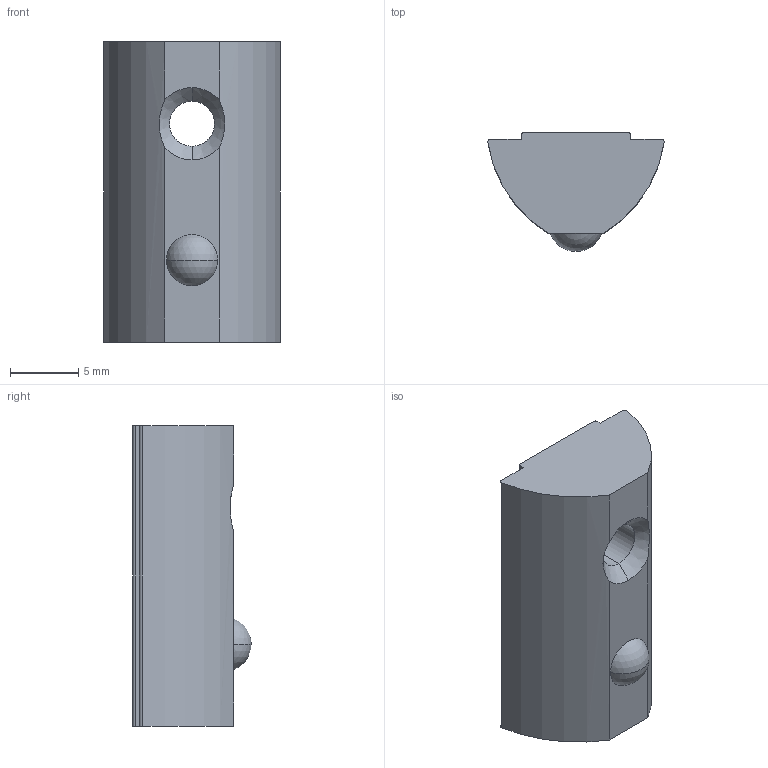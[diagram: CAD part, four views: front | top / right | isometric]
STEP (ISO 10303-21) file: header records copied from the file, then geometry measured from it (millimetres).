
FILE_DESCRIPTION (( 'STEP AP203' ), '1' );
FILE_NAME ('LIMA-LHNR4-84040.STEP', '2018-03-15T12:17:30', ( '' ), ( '' ), 'SwSTEP 2.0', 'SolidWorks 2013', '' );
FILE_SCHEMA (( 'CONFIG_CONTROL_DESIGN' ));
Length unit declared in the file: millimetre
Products named in the file (1): LIMA-LHNR4-84040
Bounding box: 12.94 x 8.7 x 22 mm (x, y, z)
Volume: 1544.4 mm3; surface area: 964.6 mm2
Topology: 1 solids, 1 shells, 24 faces, 63 edges, 41 vertices
Faces by surface type: cylinder 9, plane 9, cone 4, sphere 2
Entity records: 850 total; most frequent: CARTESIAN_POINT 151, DIRECTION 139, ORIENTED_EDGE 126, EDGE_CURVE 63, AXIS2_PLACEMENT_3D 53, VERTEX_POINT 41, VECTOR 33, LINE 33
